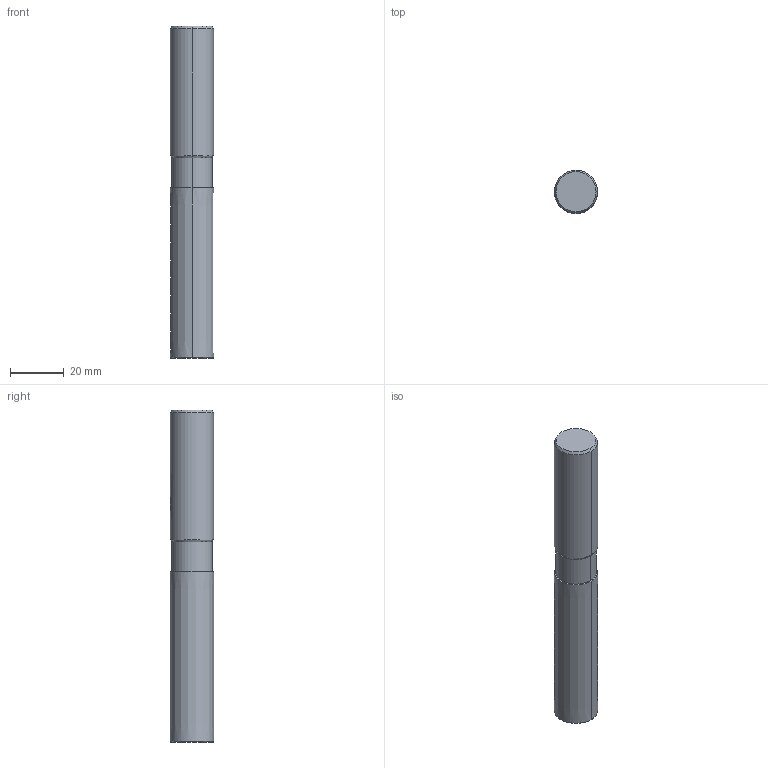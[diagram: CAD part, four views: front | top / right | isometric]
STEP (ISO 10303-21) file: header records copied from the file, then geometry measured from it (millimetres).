
FILE_DESCRIPTION(('no description'),'unknown implementation level');
FILE_NAME('solidtplbSClhjAIsEOU3GTemRf7PSYg_1.STP',' ',('CIMSOURCE GmbH'),('CADClick - KiM GmbH - www.kimweb.de'),'unknown preprocess','ACIS','unknown authorization');
FILE_SCHEMA(('automotive_design'));
Length unit declared in the file: millimetre
Products named in the file (2): NOCUT; CUT
Bounding box: 16 x 16 x 123 mm (x, y, z)
Volume: 24432.3 mm3; surface area: 10023.6 mm2
Topology: 2 solids, 2 shells, 43 faces, 97 edges, 60 vertices
Faces by surface type: cone 16, cylinder 16, plane 11
Entity records: 2648 total; most frequent: CARTESIAN_POINT 486, DIRECTION 221, STYLED_ITEM 202, PRESENTATION_STYLE_ASSIGNMENT 202, COLOUR_RGB 202, ORIENTED_EDGE 194, EDGE_CURVE 97, CURVE_STYLE 97
